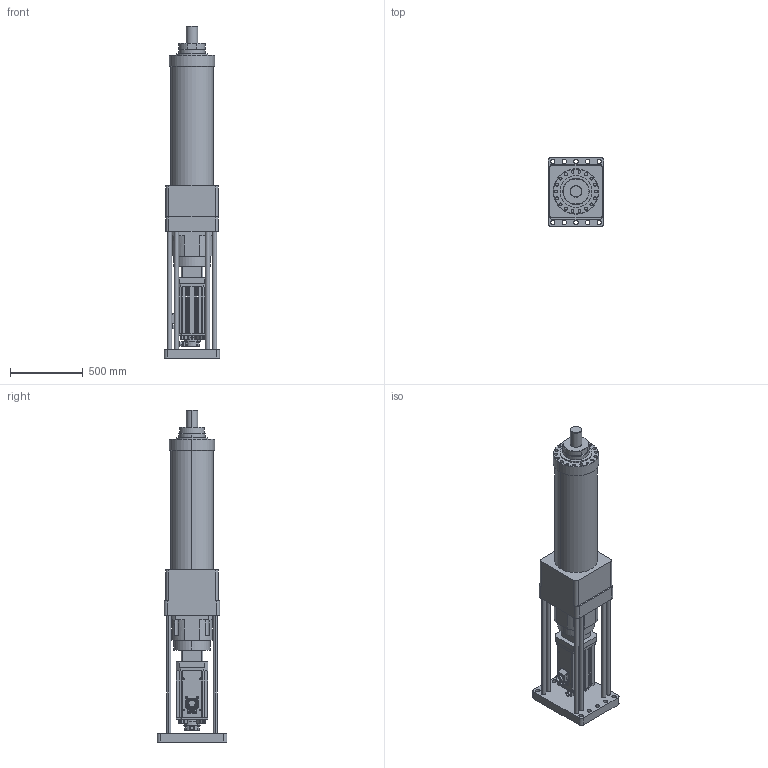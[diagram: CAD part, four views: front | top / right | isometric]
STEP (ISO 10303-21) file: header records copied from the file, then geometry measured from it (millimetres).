
FILE_DESCRIPTION (( 'STEP AP203' ), '1' );
FILE_NAME ('S12眻盄綴楊擘假蚾.STEP', '2024-08-16T07:09:03', ( '' ), ( '' ), 'SwSTEP 2.0', 'SolidWorks 2018', '' );
FILE_SCHEMA (( 'CONFIG_CONTROL_DESIGN' ));
Length unit declared in the file: millimetre
Products named in the file (4): S12眻盄綴楊擘; ECMA-F1221BS3-220框號系列機種-11KW高慣量系列; 000; S12眻盄綴楊擘假蚾
Assembly tree (3 placements, depth 2):
  S12眻盄綴楊擘假蚾
    ECMA-F1221BS3-220框號系列機種-11KW高慣量系列
    000
    S12眻盄綴楊擘
Bounding box: 380 x 480 x 2283 mm (x, y, z)
Volume: 140551172.8 mm3; surface area: 3969039.5 mm2
Topology: 2 solids, 8 shells, 940 faces, 2444 edges, 1578 vertices
Faces by surface type: plane 440, cylinder 345, cone 116, bspline 18, torus 13, sphere 8
Entity records: 31289 total; most frequent: CARTESIAN_POINT 7856, DIRECTION 4837, ORIENTED_EDGE 4600, EDGE_CURVE 2442, AXIS2_PLACEMENT_3D 1787, VERTEX_POINT 1578, LINE 1263, VECTOR 1263
